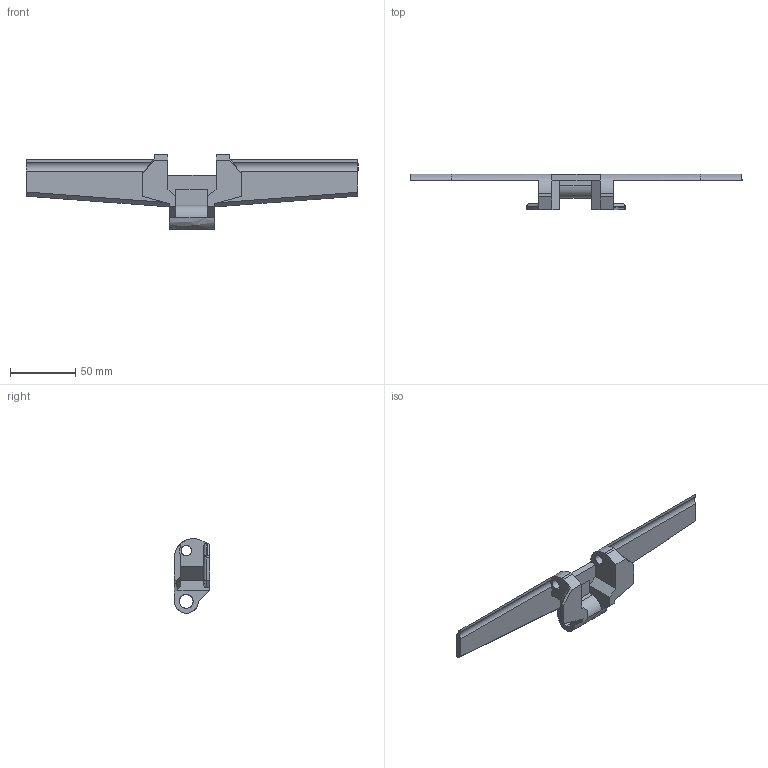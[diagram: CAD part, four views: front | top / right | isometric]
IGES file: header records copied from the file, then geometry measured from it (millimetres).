
Start section: SolidWorks IGES file using analytic representation for surfaces
Global section: file name: C:\Documents and Settings\URETIM3\Desktop\yeni katalog tolgay düzenli\D kataloðu\882 TAB KULAKLI DÖNÜÞLÜ BANT\882 TBK 254.IGS; native system: SolidWorks 2006 by SolidWorks Corporation; preprocessor: SolidWorks 2006 by SolidWorks Corporation; author: URETIM3; date: 060912.141210; units: millimetre
Bounding box: 254 x 27.2 x 57.2 mm (x, y, z)
Surface area: 26788.2 mm2 (no closed solid volume)
Topology: 0 solids, 0 shells, 82 faces, 834 edges, 834 vertices
Faces by surface type: bspline 53, revolution 29
